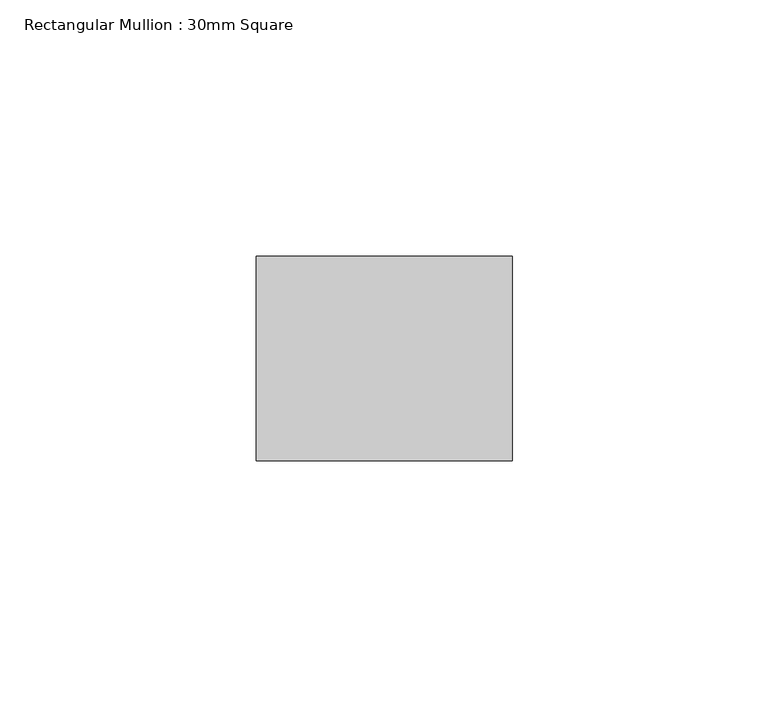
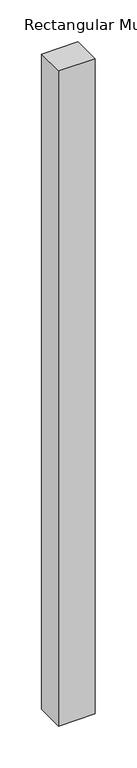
"""IFC4 building model written with IfcOpenShell, lengths in millimetres: member geometry, Rectangular Mullion : 30mm Square."""

from ifc_helpers import new_model, si_unit, frame, origin, place, context, project, spatial, polyline, outline, extrude, source, transform, mapped, element, save


def rectangular_mullion_30mm_square_0362d8f6(model_context):
    return source(origin(), model_context, "Body", "SweptSolid", [
        extrude(outline(polyline([(25.0, 20.0), (25.0, -20.0), (-25.0, -20.0), (-25.0, 20.0), (25.0, 20.0)])), frame((0.0, 0.0, -952.5), z_axis=(0.0, 0.0, 1.0), x_axis=(1.0, 0.0, 0.0)), (0.0, 0.0, 1.0), 952.5),
    ])


if __name__ == "__main__":
    model = new_model("IFC4")
    model_context = context("Model", 3, world=origin())
    ifc_project = project(units=[si_unit("LENGTHUNIT", "METRE", prefix="MILLI")], contexts=[model_context])
    site = spatial("IfcSite", under=ifc_project)
    building = spatial("IfcBuilding", under=site)
    placement = place(None, origin())
    rectangular_mullion_30mm_square_shape = rectangular_mullion_30mm_square_0362d8f6(model_context)
    element("IfcMember", 1, ObjectType="Rectangular Mullion : 30mm Square", at=placement, inside=building, context=model_context, shape_type="MappedRepresentation", body=[
        mapped(rectangular_mullion_30mm_square_shape, transform((0.0, 0.0, 0.0), x_axis=(1.0, 0.0, 0.0), y_axis=(0.0, 1.0, 0.0), z_axis=(0.0, 0.0, 1.0))),
    ])
    save(model, "model.ifc")
